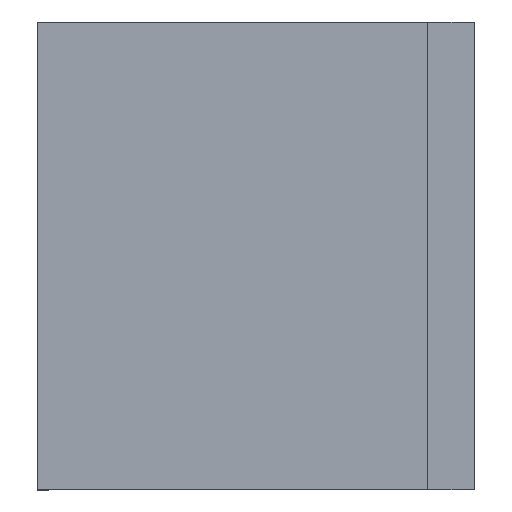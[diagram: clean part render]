
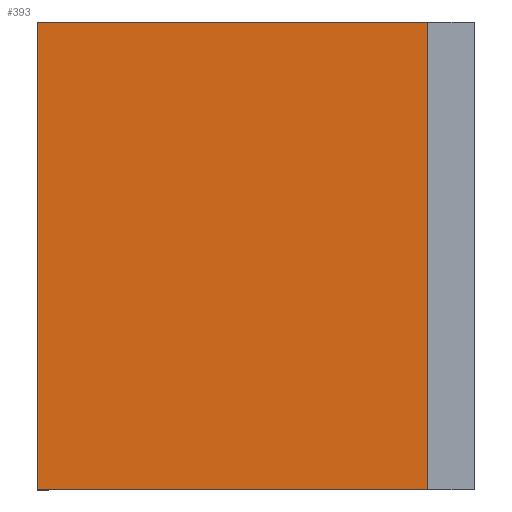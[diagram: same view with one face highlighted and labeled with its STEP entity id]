
A CAD part, left-side view. The second image highlights one B-rep face of the part: STEP entity #393.
In plain terms, the highlighted planar face has unit normal (-1, 0, 0).
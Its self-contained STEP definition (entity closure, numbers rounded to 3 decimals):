
#8 = FACE_OUTER_BOUND ( 'NONE', #729, .T. ) ;
#64 = VECTOR ( 'NONE', #696, 1000. ) ;
#65 = CARTESIAN_POINT ( 'NONE',  ( 2., 26.5, -15. ) ) ;
#94 = LINE ( 'NONE', #379, #64 ) ;
#106 = DIRECTION ( 'NONE',  ( 0., 0., 1. ) ) ;
#120 = EDGE_CURVE ( 'NONE', #474, #123, #288, .T. ) ;
#123 = VERTEX_POINT ( 'NONE', #707 ) ;
#128 = DIRECTION ( 'NONE',  ( 0., 0., -1. ) ) ;
#193 = DIRECTION ( 'NONE',  ( 1., 0., 0. ) ) ;
#241 = EDGE_CURVE ( 'NONE', #650, #474, #338, .T. ) ;
#288 = LINE ( 'NONE', #403, #543 ) ;
#300 = DIRECTION ( 'NONE',  ( 0., -1., 0. ) ) ;
#309 = PLANE ( 'NONE',  #705 ) ;
#313 = ORIENTED_EDGE ( 'NONE', *, *, #241, .T. ) ;
#327 = VECTOR ( 'NONE', #624, 1000. ) ;
#330 = CARTESIAN_POINT ( 'NONE',  ( 2., 26.5, -15. ) ) ;
#338 = LINE ( 'NONE', #576, #492 ) ;
#379 = CARTESIAN_POINT ( 'NONE',  ( 2., 26.5, 15. ) ) ;
#393 = ADVANCED_FACE ( 'NONE', ( #8 ), #309, .F. ) ;
#403 = CARTESIAN_POINT ( 'NONE',  ( 2., 1.5, -15. ) ) ;
#423 = ORIENTED_EDGE ( 'NONE', *, *, #642, .F. ) ;
#474 = VERTEX_POINT ( 'NONE', #608 ) ;
#492 = VECTOR ( 'NONE', #300, 1000. ) ;
#511 = LINE ( 'NONE', #635, #327 ) ;
#543 = VECTOR ( 'NONE', #106, 1000. ) ;
#576 = CARTESIAN_POINT ( 'NONE',  ( 2., 26.5, -15. ) ) ;
#578 = VERTEX_POINT ( 'NONE', #753 ) ;
#586 = ORIENTED_EDGE ( 'NONE', *, *, #740, .F. ) ;
#608 = CARTESIAN_POINT ( 'NONE',  ( 2., 1.5, -15. ) ) ;
#624 = DIRECTION ( 'NONE',  ( 0., 0., 1. ) ) ;
#635 = CARTESIAN_POINT ( 'NONE',  ( 2., 26.5, -15. ) ) ;
#642 = EDGE_CURVE ( 'NONE', #650, #578, #511, .T. ) ;
#650 = VERTEX_POINT ( 'NONE', #330 ) ;
#696 = DIRECTION ( 'NONE',  ( 0., -1., 0. ) ) ;
#705 = AXIS2_PLACEMENT_3D ( 'NONE', #65, #193, #128 ) ;
#707 = CARTESIAN_POINT ( 'NONE',  ( 2., 1.5, 15. ) ) ;
#729 = EDGE_LOOP ( 'NONE', ( #742, #586, #423, #313 ) ) ;
#740 = EDGE_CURVE ( 'NONE', #578, #123, #94, .T. ) ;
#742 = ORIENTED_EDGE ( 'NONE', *, *, #120, .T. ) ;
#753 = CARTESIAN_POINT ( 'NONE',  ( 2., 26.5, 15. ) ) ;
